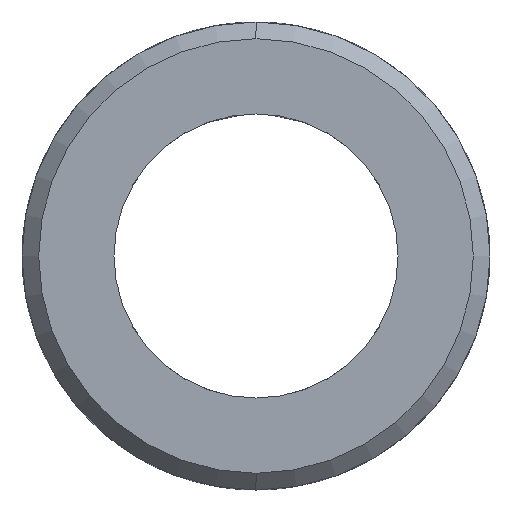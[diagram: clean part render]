
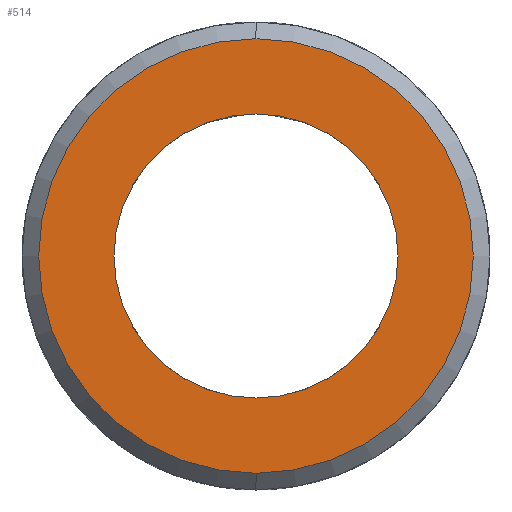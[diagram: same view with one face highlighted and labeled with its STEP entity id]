
A CAD part, left-side view. The second image highlights one B-rep face of the part: STEP entity #514.
In plain terms, the highlighted planar face has unit normal (-1, 0, 0).
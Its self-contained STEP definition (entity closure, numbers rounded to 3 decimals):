
#13 = PLANE ( 'NONE',  #620 ) ;
#14 = VERTEX_POINT ( 'NONE', #954 ) ;
#26 = VERTEX_POINT ( 'NONE', #978 ) ;
#94 = DIRECTION ( 'NONE',  ( -1., 0., 0. ) ) ;
#96 = ORIENTED_EDGE ( 'NONE', *, *, #386, .T. ) ;
#112 = DIRECTION ( 'NONE',  ( -1., 0., 0. ) ) ;
#124 = EDGE_LOOP ( 'NONE', ( #96, #461 ) ) ;
#140 = ORIENTED_EDGE ( 'NONE', *, *, #205, .F. ) ;
#174 = CIRCLE ( 'NONE', #565, 8.5 ) ;
#175 = CARTESIAN_POINT ( 'NONE',  ( -45., 0., 13. ) ) ;
#205 = EDGE_CURVE ( 'NONE', #26, #14, #174, .T. ) ;
#206 = EDGE_CURVE ( 'NONE', #790, #296, #426, .T. ) ;
#255 = CARTESIAN_POINT ( 'NONE',  ( -45., 8.5, 0. ) ) ;
#296 = VERTEX_POINT ( 'NONE', #394 ) ;
#346 = DIRECTION ( 'NONE',  ( 0., 0., -1. ) ) ;
#386 = EDGE_CURVE ( 'NONE', #296, #790, #717, .T. ) ;
#394 = CARTESIAN_POINT ( 'NONE',  ( -45., 0., -13. ) ) ;
#426 = CIRCLE ( 'NONE', #635, 13. ) ;
#433 = DIRECTION ( 'NONE',  ( -1., 0., 0. ) ) ;
#461 = ORIENTED_EDGE ( 'NONE', *, *, #206, .T. ) ;
#462 = CARTESIAN_POINT ( 'NONE',  ( -45., 0., 0. ) ) ;
#514 = ADVANCED_FACE ( 'NONE', ( #820, #570 ), #13, .F. ) ;
#556 = DIRECTION ( 'NONE',  ( 0., 0., -1. ) ) ;
#565 = AXIS2_PLACEMENT_3D ( 'NONE', #612, #94, #700 ) ;
#570 = FACE_BOUND ( 'NONE', #1070, .T. ) ;
#612 = CARTESIAN_POINT ( 'NONE',  ( -45., 0., 0. ) ) ;
#620 = AXIS2_PLACEMENT_3D ( 'NONE', #255, #878, #346 ) ;
#630 = CARTESIAN_POINT ( 'NONE',  ( -45., 0., 0. ) ) ;
#635 = AXIS2_PLACEMENT_3D ( 'NONE', #462, #1090, #556 ) ;
#675 = AXIS2_PLACEMENT_3D ( 'NONE', #972, #433, #1058 ) ;
#693 = EDGE_CURVE ( 'NONE', #14, #26, #817, .T. ) ;
#700 = DIRECTION ( 'NONE',  ( 0., 0., 1. ) ) ;
#717 = CIRCLE ( 'NONE', #675, 13. ) ;
#722 = DIRECTION ( 'NONE',  ( 0., 0., 1. ) ) ;
#790 = VERTEX_POINT ( 'NONE', #175 ) ;
#817 = CIRCLE ( 'NONE', #851, 8.5 ) ;
#820 = FACE_OUTER_BOUND ( 'NONE', #124, .T. ) ;
#851 = AXIS2_PLACEMENT_3D ( 'NONE', #630, #112, #722 ) ;
#878 = DIRECTION ( 'NONE',  ( 1., 0., 0. ) ) ;
#954 = CARTESIAN_POINT ( 'NONE',  ( -45., 0., 8.5 ) ) ;
#972 = CARTESIAN_POINT ( 'NONE',  ( -45., 0., 0. ) ) ;
#978 = CARTESIAN_POINT ( 'NONE',  ( -45., 0., -8.5 ) ) ;
#1054 = ORIENTED_EDGE ( 'NONE', *, *, #693, .F. ) ;
#1058 = DIRECTION ( 'NONE',  ( 0., 0., -1. ) ) ;
#1070 = EDGE_LOOP ( 'NONE', ( #1054, #140 ) ) ;
#1090 = DIRECTION ( 'NONE',  ( -1., 0., 0. ) ) ;
